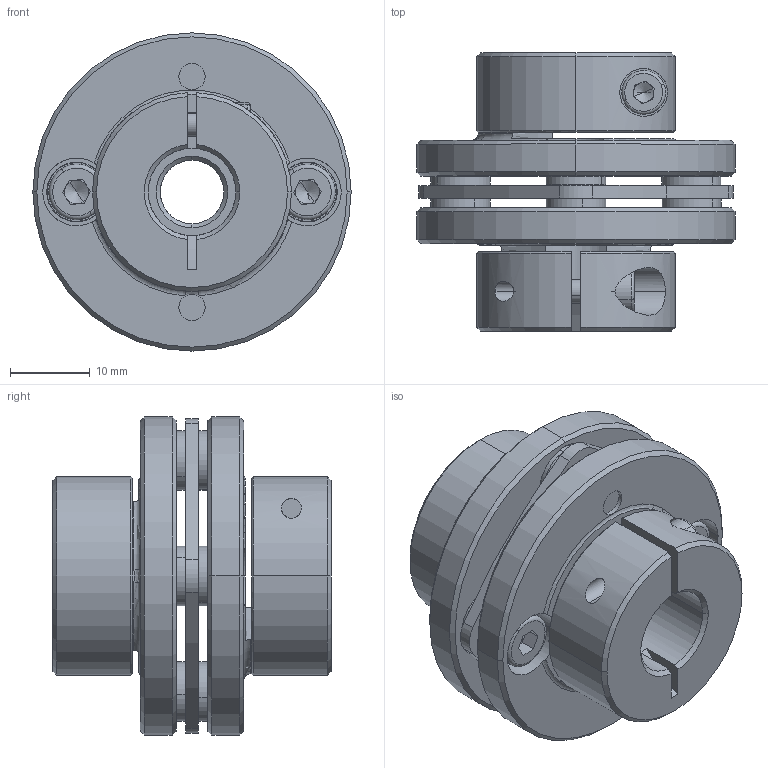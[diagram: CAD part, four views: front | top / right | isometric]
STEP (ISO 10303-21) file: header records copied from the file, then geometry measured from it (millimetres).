
FILE_DESCRIPTION (( 'STEP AP203' ), '1' );
FILE_NAME ('LE1-B-D40L35-8-11.STEP', '2021-11-01T02:09:31', ( '' ), ( '' ), 'SwSTEP 2.0', 'SolidWorks 2018', '' );
FILE_SCHEMA (( 'CONFIG_CONTROL_DESIGN' ));
Length unit declared in the file: millimetre
Products named in the file (1): LE1-B-D40L35-8-11
Bounding box: 40 x 35 x 40 mm (x, y, z)
Volume: 19784.8 mm3; surface area: 12722.2 mm2
Topology: 1 solids, 13 shells, 423 faces, 1021 edges, 630 vertices
Faces by surface type: cylinder 149, plane 140, cone 114, torus 18, bspline 2
Entity records: 12766 total; most frequent: CARTESIAN_POINT 2459, DIRECTION 2335, ORIENTED_EDGE 2018, EDGE_CURVE 1009, AXIS2_PLACEMENT_3D 952, VERTEX_POINT 630, CIRCLE 530, EDGE_LOOP 491
